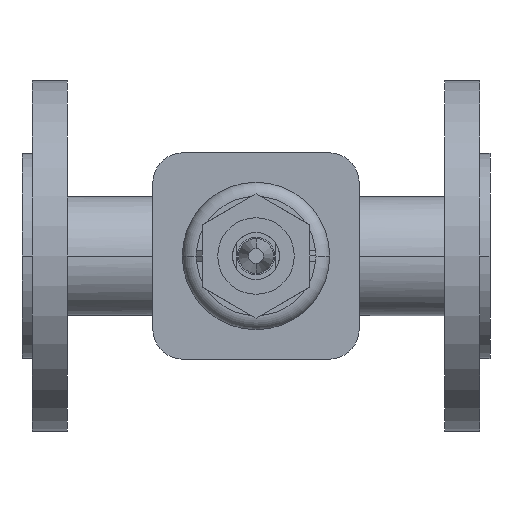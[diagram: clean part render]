
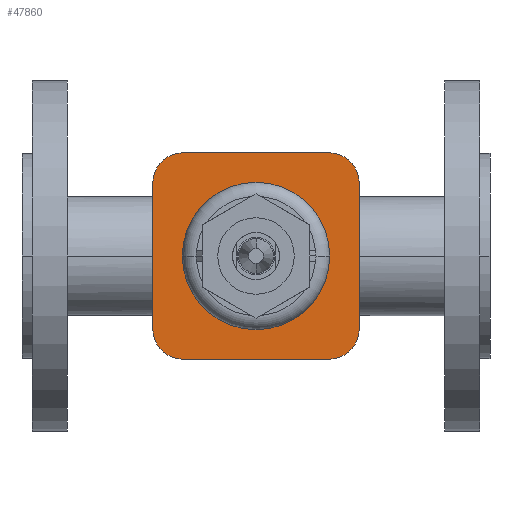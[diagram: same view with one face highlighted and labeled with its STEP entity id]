
A CAD part, front view. The second image highlights one B-rep face of the part: STEP entity #47860.
In plain terms, the highlighted planar face has unit normal (0, -1, 0).
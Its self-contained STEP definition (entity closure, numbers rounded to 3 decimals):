
#14550=CARTESIAN_POINT('',(131.5,-80.5,0.));
#14560=VERTEX_POINT('',#14550);
#14590=CARTESIAN_POINT('',(100.,-80.5,0.));
#14600=DIRECTION('',(0.,-1.,0.));
#14610=DIRECTION('',(-1.,0.,0.));
#14620=AXIS2_PLACEMENT_3D('',#14590,#14600,#14610);
#14630=CIRCLE('',#14620,31.5);
#14640=CARTESIAN_POINT('',(68.5,-80.5,0.));
#14650=VERTEX_POINT('',#14640);
#14660=EDGE_CURVE('',#14650,#14560,#14630,.T.);
#37400=CARTESIAN_POINT('',(131.113,-80.5,-44.113));
#37410=VERTEX_POINT('',#37400);
#37460=CARTESIAN_POINT('',(131.113,-80.5,-31.113));
#37470=DIRECTION('',(0.,-1.,0.));
#37480=DIRECTION('',(1.,0.,0.));
#37490=AXIS2_PLACEMENT_3D('',#37460,#37470,#37480);
#37500=CIRCLE('',#37490,13.);
#37510=CARTESIAN_POINT('',(144.113,-80.5,-31.113));
#37520=VERTEX_POINT('',#37510);
#37530=EDGE_CURVE('',#37410,#37520,#37500,.T.);
#39470=CARTESIAN_POINT('',(55.887,-80.5,31.113));
#39480=VERTEX_POINT('',#39470);
#39510=CARTESIAN_POINT('',(55.887,-80.5,-15.556));
#39520=DIRECTION('',(0.,0.,-1.));
#39530=VECTOR('',#39520,1.);
#39540=LINE('',#39510,#39530);
#39550=CARTESIAN_POINT('',(55.887,-80.5,-31.113));
#39560=VERTEX_POINT('',#39550);
#39570=EDGE_CURVE('',#39480,#39560,#39540,.T.);
#40890=CARTESIAN_POINT('',(68.887,-80.5,44.113));
#40900=VERTEX_POINT('',#40890);
#40950=CARTESIAN_POINT('',(68.887,-80.5,31.113));
#40960=DIRECTION('',(0.,-1.,0.));
#40970=DIRECTION('',(-1.,0.,0.));
#40980=AXIS2_PLACEMENT_3D('',#40950,#40960,#40970);
#40990=CIRCLE('',#40980,13.);
#41000=EDGE_CURVE('',#40900,#39480,#40990,.T.);
#41800=CARTESIAN_POINT('',(131.113,-80.5,44.113));
#41810=VERTEX_POINT('',#41800);
#41840=CARTESIAN_POINT('',(62.069,-80.5,44.113));
#41850=DIRECTION('',(-1.,0.,0.));
#41860=VECTOR('',#41850,1.);
#41870=LINE('',#41840,#41860);
#41880=EDGE_CURVE('',#41810,#40900,#41870,.T.);
#42720=CARTESIAN_POINT('',(68.887,-80.5,-44.113));
#42730=VERTEX_POINT('',#42720);
#42760=CARTESIAN_POINT('',(93.181,-80.5,-44.113));
#42770=DIRECTION('',(1.,0.,0.));
#42780=VECTOR('',#42770,1.);
#42790=LINE('',#42760,#42780);
#42800=EDGE_CURVE('',#42730,#37410,#42790,.T.);
#47240=CARTESIAN_POINT('',(144.113,-80.5,31.113));
#47250=VERTEX_POINT('',#47240);
#47300=CARTESIAN_POINT('',(131.113,-80.5,31.113));
#47310=DIRECTION('',(0.,-1.,0.));
#47320=DIRECTION('',(0.,0.,1.));
#47330=AXIS2_PLACEMENT_3D('',#47300,#47310,#47320);
#47340=CIRCLE('',#47330,13.);
#47350=EDGE_CURVE('',#47250,#41810,#47340,.T.);
#47550=CARTESIAN_POINT('',(55.25,-80.5,0.));
#47560=DIRECTION('',(0.,-1.,0.));
#47570=DIRECTION('',(-1.,0.,0.));
#47580=AXIS2_PLACEMENT_3D('',#47550,#47560,#47570);
#47590=PLANE('',#47580);
#47600=ORIENTED_EDGE('',*,*,#41000,.T.);
#47610=ORIENTED_EDGE('',*,*,#41880,.T.);
#47620=ORIENTED_EDGE('',*,*,#47350,.T.);
#47630=CARTESIAN_POINT('',(144.113,-80.5,15.556));
#47640=DIRECTION('',(0.,0.,1.));
#47650=VECTOR('',#47640,1.);
#47660=LINE('',#47630,#47650);
#47670=EDGE_CURVE('',#37520,#47250,#47660,.T.);
#47680=ORIENTED_EDGE('',*,*,#47670,.T.);
#47690=ORIENTED_EDGE('',*,*,#37530,.T.);
#47700=ORIENTED_EDGE('',*,*,#42800,.T.);
#47710=CARTESIAN_POINT('',(68.887,-80.5,-31.113));
#47720=DIRECTION('',(0.,-1.,0.));
#47730=DIRECTION('',(0.,0.,-1.));
#47740=AXIS2_PLACEMENT_3D('',#47710,#47720,#47730);
#47750=CIRCLE('',#47740,13.);
#47760=EDGE_CURVE('',#39560,#42730,#47750,.T.);
#47770=ORIENTED_EDGE('',*,*,#47760,.T.);
#47780=ORIENTED_EDGE('',*,*,#39570,.T.);
#47790=EDGE_LOOP('',(#47780,#47770,#47700,#47690,#47680,#47620,#47610,
#47600));
#47800=FACE_OUTER_BOUND('',#47790,.T.);
#47810=EDGE_CURVE('',#14560,#14650,#14630,.T.);
#47820=ORIENTED_EDGE('',*,*,#47810,.F.);
#47830=ORIENTED_EDGE('',*,*,#14660,.F.);
#47840=EDGE_LOOP('',(#47830,#47820));
#47850=FACE_BOUND('',#47840,.T.);
#47860=ADVANCED_FACE('',(#47800,#47850),#47590,.T.);
